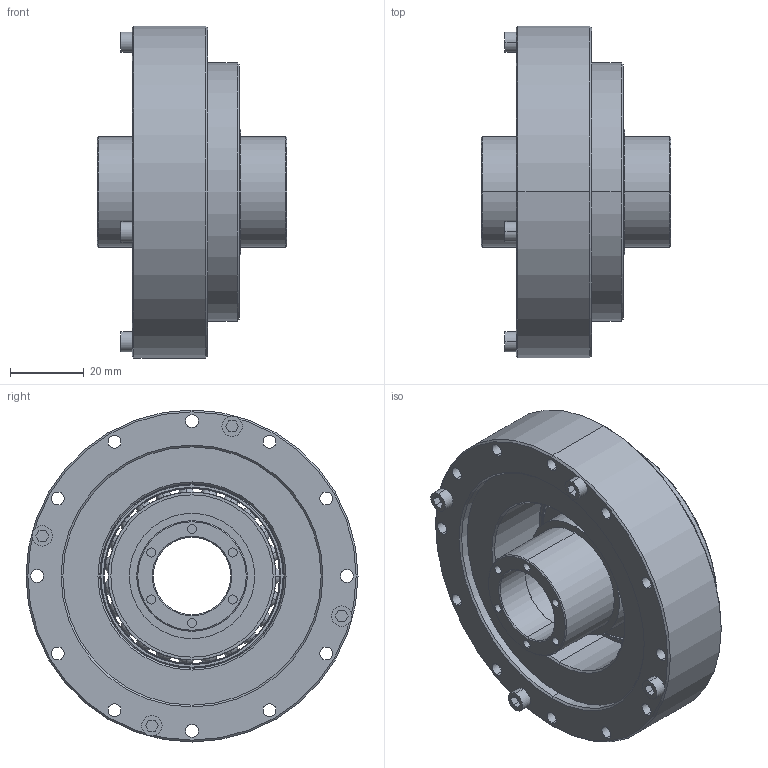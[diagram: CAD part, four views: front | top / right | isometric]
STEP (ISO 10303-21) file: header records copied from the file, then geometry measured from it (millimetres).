
FILE_DESCRIPTION((''),'2;1');
FILE_NAME('LHT-20-U-I_ASM','2017-09-29T',('Administrator'),(''),'PRO/ENGINEER BY PARAMETRIC TECHNOLOGY CORPORATION, 2014200','PRO/ENGINEER BY PARAMETRIC TECHNOLOGY CORPORATION, 2014200','');
FILE_SCHEMA(('AUTOMOTIVE_DESIGN { 1 0 10303 214 1 1 1 1 }'));
Length unit declared in the file: millimetre
Products named in the file (20): MANIFOLD_SOLID_BREP_6135; MANIFOLD_SOLID_BREP_6144; MANIFOLD_SOLID_BREP_6147; MANIFOLD_SOLID_BREP_6152; MANIFOLD_SOLID_BREP_6153; MANIFOLD_SOLID_BREP_6155; MANIFOLD_SOLID_BREP_6170; MANIFOLD_SOLID_BREP_6174; MANIFOLD_SOLID_BREP_6180; MANIFOLD_SOLID_BREP_6188; ADMI7ED1CHG9_ASM; MANIFOLD_SOLID_BREP_743_1; MANIFOLD_SOLID_BREP_778_1; MANIFOLD_SOLID_BREP_786_1; MANIFOLD_SOLID_BREP_789_1; MANIFOLD_SOLID_BREP_811_1; ADMI85A9D2OS_ASM_1_ASM; LHT-20-U-3_ASM_1_ASM; 20-5_ASM; LHT-20-U-I_ASM
Assembly tree (41 placements, depth 5):
  LHT-20-U-I_ASM
    ADMI7ED1CHG9_ASM
      MANIFOLD_SOLID_BREP_6135
      MANIFOLD_SOLID_BREP_6144
      MANIFOLD_SOLID_BREP_6147
      MANIFOLD_SOLID_BREP_6152
      MANIFOLD_SOLID_BREP_6153
      MANIFOLD_SOLID_BREP_6155
      MANIFOLD_SOLID_BREP_6170
      MANIFOLD_SOLID_BREP_6174
      MANIFOLD_SOLID_BREP_6180
      MANIFOLD_SOLID_BREP_6188
    20-5_ASM
      LHT-20-U-3_ASM_1_ASM
        ADMI85A9D2OS_ASM_1_ASM
          MANIFOLD_SOLID_BREP_743_1
          MANIFOLD_SOLID_BREP_778_1
          MANIFOLD_SOLID_BREP_786_1
          MANIFOLD_SOLID_BREP_789_1  x23
          MANIFOLD_SOLID_BREP_811_1
Bounding box: 51.5 x 90 x 90 mm (x, y, z)
Volume: 125660.2 mm3; surface area: 48166.4 mm2
Topology: 37 solids, 37 shells, 639 faces, 1684 edges, 1036 vertices
Faces by surface type: cylinder 246, plane 161, cone 108, sphere 92, torus 32
Entity records: 22601 total; most frequent: DIRECTION 3476, CARTESIAN_POINT 2999, ORIENTED_EDGE 2736, AXIS2_PLACEMENT_3D 1457, PRESENTATION_STYLE_ASSIGNMENT 1383, STYLED_ITEM 1383, CURVE_STYLE 1368, EDGE_CURVE 1368
